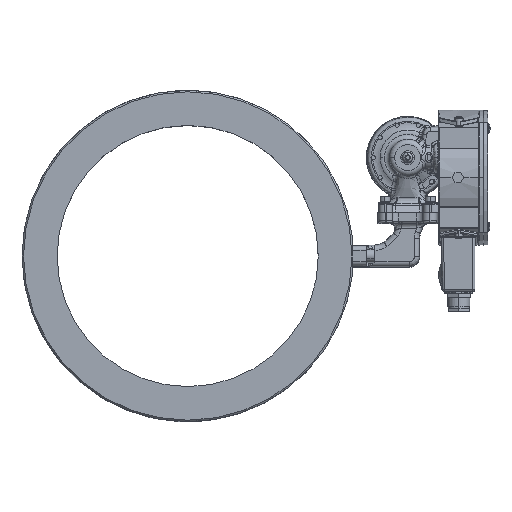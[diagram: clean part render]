
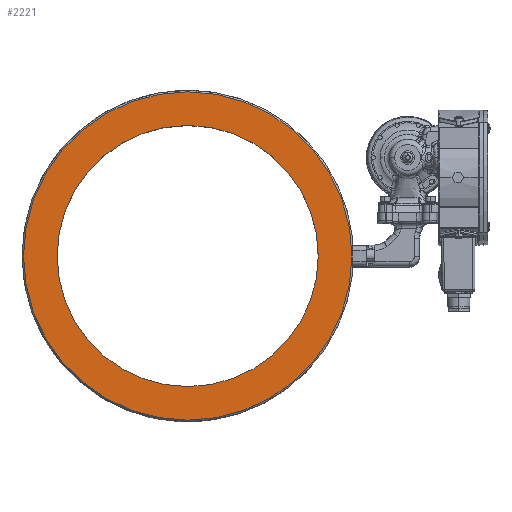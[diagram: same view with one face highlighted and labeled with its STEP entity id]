
A CAD part, top view. The second image highlights one B-rep face of the part: STEP entity #2221.
In plain terms, the highlighted planar face has unit normal (0, 0, 1).
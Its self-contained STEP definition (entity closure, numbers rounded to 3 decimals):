
#2221 = ADVANCED_FACE ( 'NONE', ( #5147, #26204 ), #20876, .T. ) ;
#5147 = FACE_OUTER_BOUND ( 'NONE', #72032, .T. ) ;
#8769 = AXIS2_PLACEMENT_3D ( 'NONE', #9374, #64573, #17387 ) ;
#9374 = CARTESIAN_POINT ( 'NONE',  ( -219.19, -67.693, 57.468 ) ) ;
#13907 = AXIS2_PLACEMENT_3D ( 'NONE', #64091, #16896, #72024 ) ;
#14546 = VERTEX_POINT ( 'NONE', #43841 ) ;
#16896 = DIRECTION ( 'NONE',  ( 0., 0., -1. ) ) ;
#17387 = DIRECTION ( 'NONE',  ( -1., 0., 0. ) ) ;
#20045 = DIRECTION ( 'NONE',  ( 0., 0., 1. ) ) ;
#20876 = PLANE ( 'NONE',  #80521 ) ;
#21081 = DIRECTION ( 'NONE',  ( 1., 0., 0. ) ) ;
#23055 = VERTEX_POINT ( 'NONE', #96453 ) ;
#23590 = ORIENTED_EDGE ( 'NONE', *, *, #93579, .T. ) ;
#23888 = CARTESIAN_POINT ( 'NONE',  ( -204.151, -67.693, 57.468 ) ) ;
#23944 = CIRCLE ( 'NONE', #8769, 130. ) ;
#26003 = ORIENTED_EDGE ( 'NONE', *, *, #56541, .T. ) ;
#26204 = FACE_BOUND ( 'NONE', #83745, .T. ) ;
#30412 = VERTEX_POINT ( 'NONE', #94522 ) ;
#30929 = ORIENTED_EDGE ( 'NONE', *, *, #44677, .F. ) ;
#37843 = CARTESIAN_POINT ( 'NONE',  ( -219.19, -67.693, 57.468 ) ) ;
#41865 = CARTESIAN_POINT ( 'NONE',  ( -219.19, -67.693, 57.468 ) ) ;
#43676 = AXIS2_PLACEMENT_3D ( 'NONE', #41865, #96529, #49723 ) ;
#43841 = CARTESIAN_POINT ( 'NONE',  ( -349.19, -67.693, 57.468 ) ) ;
#44677 = EDGE_CURVE ( 'NONE', #30412, #23055, #94850, .T. ) ;
#45733 = DIRECTION ( 'NONE',  ( 0., 1., 0. ) ) ;
#47068 = CARTESIAN_POINT ( 'NONE',  ( -89.19, -67.693, 57.468 ) ) ;
#49723 = DIRECTION ( 'NONE',  ( 0., 1., 0. ) ) ;
#56541 = EDGE_CURVE ( 'NONE', #14546, #62637, #78427, .T. ) ;
#61815 = CIRCLE ( 'NONE', #88950, 163.5 ) ;
#62637 = VERTEX_POINT ( 'NONE', #47068 ) ;
#64091 = CARTESIAN_POINT ( 'NONE',  ( -219.19, -67.693, 57.468 ) ) ;
#64573 = DIRECTION ( 'NONE',  ( 0., 0., -1. ) ) ;
#72024 = DIRECTION ( 'NONE',  ( -1., 0., 0. ) ) ;
#72032 = EDGE_LOOP ( 'NONE', ( #93468, #30929 ) ) ;
#78427 = CIRCLE ( 'NONE', #13907, 130. ) ;
#80521 = AXIS2_PLACEMENT_3D ( 'NONE', #23888, #20045, #21081 ) ;
#83745 = EDGE_LOOP ( 'NONE', ( #26003, #23590 ) ) ;
#88950 = AXIS2_PLACEMENT_3D ( 'NONE', #37843, #92620, #45733 ) ;
#92620 = DIRECTION ( 'NONE',  ( 0., 0., -1. ) ) ;
#93468 = ORIENTED_EDGE ( 'NONE', *, *, #100815, .F. ) ;
#93579 = EDGE_CURVE ( 'NONE', #62637, #14546, #23944, .T. ) ;
#94522 = CARTESIAN_POINT ( 'NONE',  ( -219.19, -231.193, 57.468 ) ) ;
#94850 = CIRCLE ( 'NONE', #43676, 163.5 ) ;
#96453 = CARTESIAN_POINT ( 'NONE',  ( -219.19, 95.807, 57.468 ) ) ;
#96529 = DIRECTION ( 'NONE',  ( 0., 0., -1. ) ) ;
#100815 = EDGE_CURVE ( 'NONE', #23055, #30412, #61815, .T. ) ;
